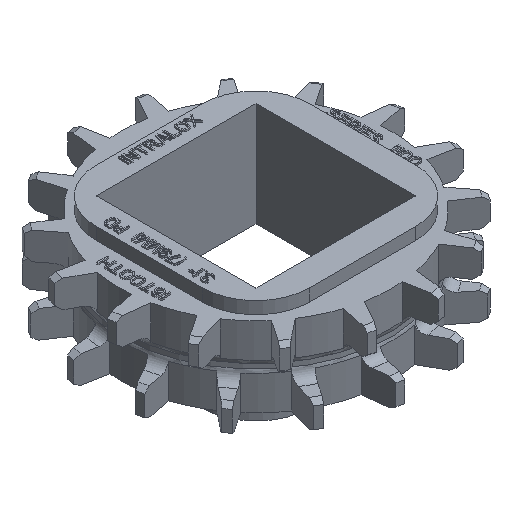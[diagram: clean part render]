
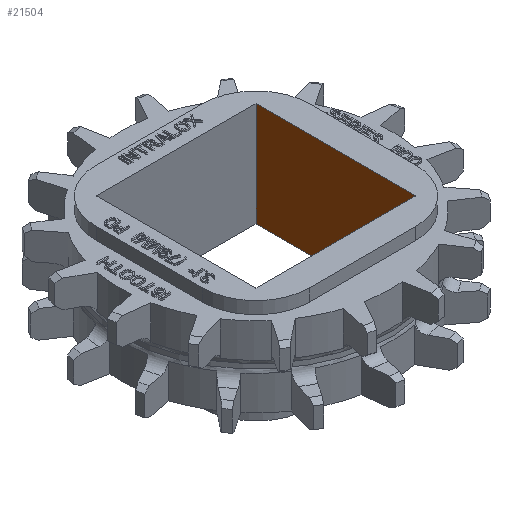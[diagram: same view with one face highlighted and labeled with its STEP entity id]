
A CAD part, isometric view. The second image highlights one B-rep face of the part: STEP entity #21504.
In plain terms, the highlighted planar face has unit normal (-1, 0, 0).
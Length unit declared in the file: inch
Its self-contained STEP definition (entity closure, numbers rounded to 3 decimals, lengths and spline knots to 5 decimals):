
#3926=DIRECTION('',(0.,1.,0.));
#3927=VECTOR('',#3926,1.5);
#3928=CARTESIAN_POINT('',(0.75,-0.75,-0.49));
#3929=LINE('',#3928,#3927);
#3942=DIRECTION('',(0.,0.,-1.));
#3943=VECTOR('',#3942,0.98);
#3944=CARTESIAN_POINT('',(0.75,-0.75,0.49));
#3945=LINE('',#3944,#3943);
#3946=DIRECTION('',(0.,0.,-1.));
#3947=VECTOR('',#3946,0.98);
#3948=CARTESIAN_POINT('',(0.75,0.75,0.49));
#3949=LINE('',#3948,#3947);
#5482=DIRECTION('',(0.,1.,0.));
#5483=VECTOR('',#5482,1.5);
#5484=CARTESIAN_POINT('',(0.75,-0.75,0.49));
#5485=LINE('',#5484,#5483);
#17802=CARTESIAN_POINT('',(0.75,-0.75,-0.49));
#17803=VERTEX_POINT('',#17802);
#17804=CARTESIAN_POINT('',(0.75,0.75,-0.49));
#17805=VERTEX_POINT('',#17804);
#17810=CARTESIAN_POINT('',(0.75,-0.75,0.49));
#17811=VERTEX_POINT('',#17810);
#17812=CARTESIAN_POINT('',(0.75,0.75,0.49));
#17813=VERTEX_POINT('',#17812);
#21491=CARTESIAN_POINT('',(0.75,-0.75,2.0478));
#21492=DIRECTION('',(1.,0.,0.));
#21493=DIRECTION('',(0.,1.,0.));
#21494=AXIS2_PLACEMENT_3D('',#21491,#21492,#21493);
#21495=PLANE('',#21494);
#21496=ORIENTED_EDGE('',*,*,#21455,.T.);
#21498=ORIENTED_EDGE('',*,*,#21497,.F.);
#21500=ORIENTED_EDGE('',*,*,#21499,.F.);
#21501=ORIENTED_EDGE('',*,*,#21483,.T.);
#21502=EDGE_LOOP('',(#21496,#21498,#21500,#21501));
#21503=FACE_OUTER_BOUND('',#21502,.F.);
#21504=ADVANCED_FACE('',(#21503),#21495,.F.);
#21455=EDGE_CURVE('',#17803,#17805,#3929,.T.);
#21483=EDGE_CURVE('',#17811,#17803,#3945,.T.);
#21497=EDGE_CURVE('',#17813,#17805,#3949,.T.);
#21499=EDGE_CURVE('',#17811,#17813,#5485,.T.);
